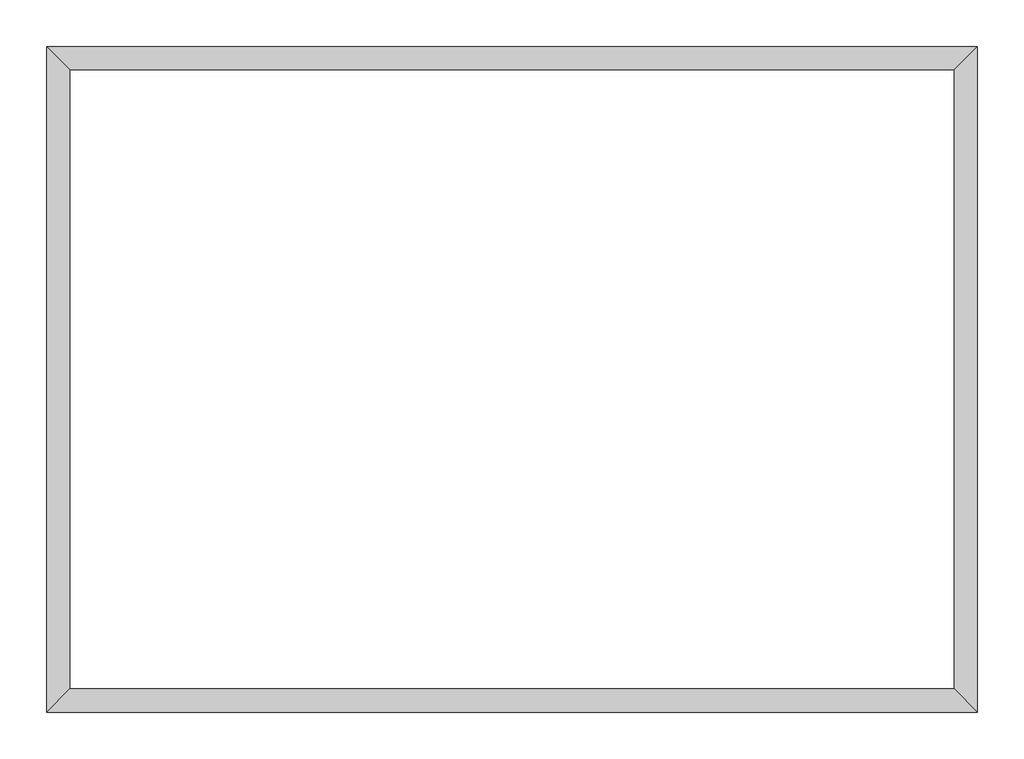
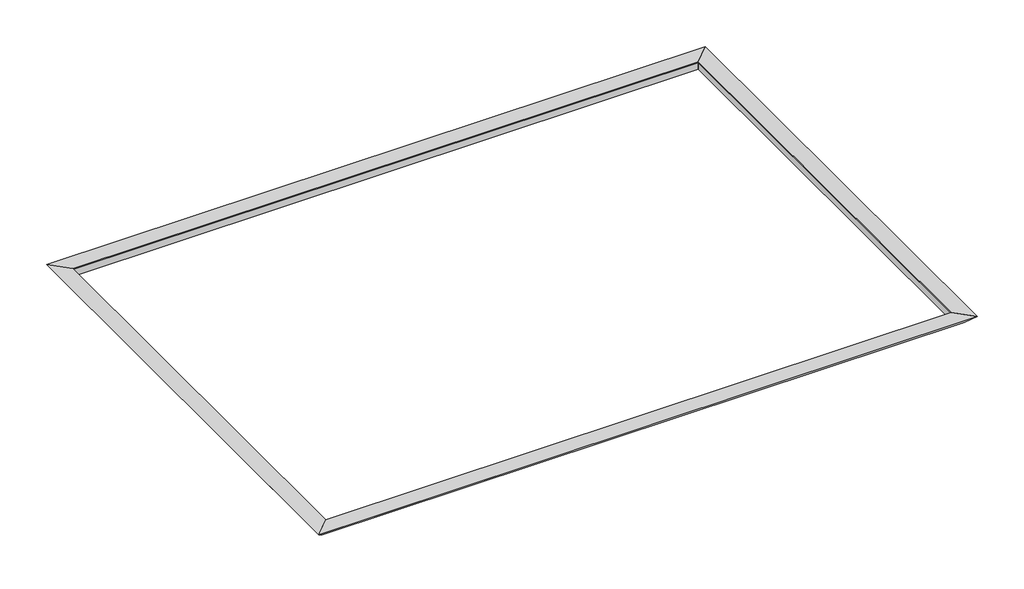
# One storey: 8 proxies.
"""IFC4 building model written with IfcOpenShell, lengths in millimetres."""

from ifc_helpers import new_model, si_unit, origin, place, context, project, spatial, faceted_brep, element, save

model = new_model("IFC4")

# Units and contexts
model_context = context("Model", 3, world=origin())
ifc_project = project(units=[si_unit("LENGTHUNIT", "METRE", prefix="MILLI")], contexts=[model_context])

# Site, building, storey
site = spatial("IfcSite", under=ifc_project)
building = spatial("IfcBuilding", under=site)
storey = spatial("IfcBuildingStorey", under=building, Name="RFL(水上)", Elevation=12935.0)

# Proxies
placement = place(None, origin())
element("IfcBuildingElementProxy", 1, Name="Reveals", at=placement, inside=storey, context=model_context, shape_type="Brep", body=[
    faceted_brep([(225.0, 8175.0, 13490.0), (225.0, 8175.0, 13510.0), (-75.0, 8475.0, 13510.0), (11575.0, 8175.0, 13490.0), (11875.0, 8475.0, 13510.0), (11575.0, 8175.0, 13510.0)], [[[0, 1, 2]], [[3, 4, 5]], [[1, 0, 3, 5]], [[2, 1, 5, 4]], [[0, 2, 4, 3]]]),
])
element("IfcBuildingElementProxy", 2, Name="Wall Sweeps", at=placement, inside=storey, context=model_context, shape_type="Brep", body=[
    faceted_brep([(225.0, 8175.0, 13360.0), (225.0, 8175.0, 13490.0), (-75.0, 8475.0, 13510.0), (75.0, 8325.0, 13360.0), (11575.0, 8175.0, 13360.0), (11725.0, 8325.0, 13360.0), (11875.0, 8475.0, 13510.0), (11575.0, 8175.0, 13490.0)], [[[0, 1, 2, 3]], [[4, 5, 6, 7]], [[1, 0, 4, 7]], [[2, 1, 7, 6]], [[3, 2, 6, 5]], [[0, 3, 5, 4]]]),
])
element("IfcBuildingElementProxy", 3, Name="Reveals", at=placement, inside=storey, context=model_context, shape_type="Brep", body=[
    faceted_brep([(11575.0, 8175.0, 13490.0), (11575.0, 8175.0, 13510.0), (11875.0, 8475.0, 13510.0), (11575.0, 225.0, 13490.0), (11875.0, -75.0, 13510.0), (11575.0, 225.0, 13510.0)], [[[0, 1, 2]], [[3, 4, 5]], [[1, 0, 3, 5]], [[2, 1, 5, 4]], [[0, 2, 4, 3]]]),
])
element("IfcBuildingElementProxy", 4, Name="Wall Sweeps", at=placement, inside=storey, context=model_context, shape_type="Brep", body=[
    faceted_brep([(11575.0, 8175.0, 13360.0), (11575.0, 8175.0, 13490.0), (11875.0, 8475.0, 13510.0), (11725.0, 8325.0, 13360.0), (11575.0, 225.0, 13360.0), (11725.0, 75.0, 13360.0), (11875.0, -75.0, 13510.0), (11575.0, 225.0, 13490.0)], [[[0, 1, 2, 3]], [[4, 5, 6, 7]], [[1, 0, 4, 7]], [[2, 1, 7, 6]], [[3, 2, 6, 5]], [[0, 3, 5, 4]]]),
])
element("IfcBuildingElementProxy", 5, Name="Reveals", at=placement, inside=storey, context=model_context, shape_type="Brep", body=[
    faceted_brep([(11575.0, 225.0, 13490.0), (11575.0, 225.0, 13510.0), (11875.0, -75.0, 13510.0), (225.0, 225.0, 13490.0), (-75.0, -75.0, 13510.0), (225.0, 225.0, 13510.0)], [[[0, 1, 2]], [[3, 4, 5]], [[1, 0, 3, 5]], [[2, 1, 5, 4]], [[0, 2, 4, 3]]]),
])
element("IfcBuildingElementProxy", 6, Name="Wall Sweeps", at=placement, inside=storey, context=model_context, shape_type="Brep", body=[
    faceted_brep([(11575.0, 225.0, 13360.0), (11575.0, 225.0, 13490.0), (11875.0, -75.0, 13510.0), (11725.0, 75.0, 13360.0), (225.0, 225.0, 13360.0), (75.0, 75.0, 13360.0), (-75.0, -75.0, 13510.0), (225.0, 225.0, 13490.0)], [[[0, 1, 2, 3]], [[4, 5, 6, 7]], [[1, 0, 4, 7]], [[2, 1, 7, 6]], [[3, 2, 6, 5]], [[0, 3, 5, 4]]]),
])
element("IfcBuildingElementProxy", 7, Name="Reveals", at=placement, inside=storey, context=model_context, shape_type="Brep", body=[
    faceted_brep([(225.0, 225.0, 13490.0), (225.0, 225.0, 13510.0), (-75.0, -75.0, 13510.0), (225.0, 8175.0, 13490.0), (-75.0, 8475.0, 13510.0), (225.0, 8175.0, 13510.0)], [[[0, 1, 2]], [[3, 4, 5]], [[1, 0, 3, 5]], [[2, 1, 5, 4]], [[0, 2, 4, 3]]]),
])
element("IfcBuildingElementProxy", 8, Name="Wall Sweeps", at=placement, inside=storey, context=model_context, shape_type="Brep", body=[
    faceted_brep([(225.0, 225.0, 13360.0), (225.0, 225.0, 13490.0), (-75.0, -75.0, 13510.0), (75.0, 75.0, 13360.0), (225.0, 8175.0, 13360.0), (75.0, 8325.0, 13360.0), (-75.0, 8475.0, 13510.0), (225.0, 8175.0, 13490.0)], [[[0, 1, 2, 3]], [[4, 5, 6, 7]], [[1, 0, 4, 7]], [[2, 1, 7, 6]], [[3, 2, 6, 5]], [[0, 3, 5, 4]]]),
])

save(model, "model.ifc")
